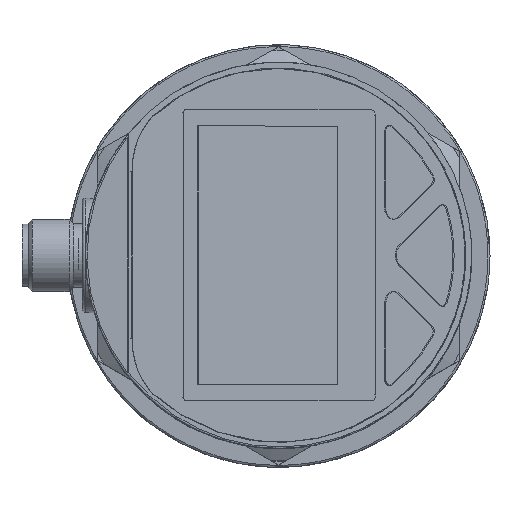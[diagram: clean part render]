
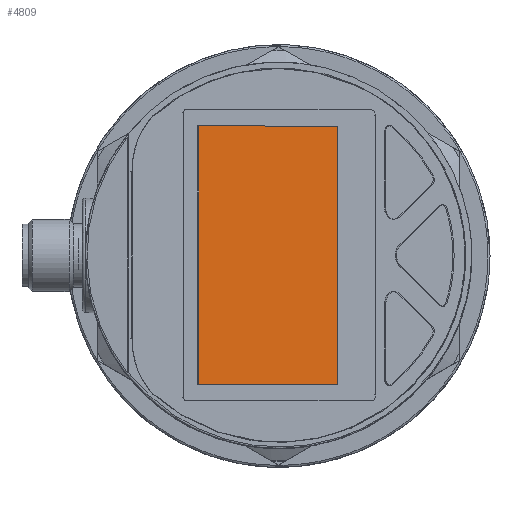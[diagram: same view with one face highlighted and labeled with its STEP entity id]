
A CAD part, top view. The second image highlights one B-rep face of the part: STEP entity #4809.
In plain terms, the highlighted free-form (B-spline) face has degree [1, 1] with [2, 2] control points.
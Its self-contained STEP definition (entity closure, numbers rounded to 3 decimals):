
#4589=CARTESIAN_POINT('',(-16.596,23.645,58.658));
#4590=VERTEX_POINT('',#4589);
#4596=CARTESIAN_POINT('',(-16.596,-23.6,58.658));
#4597=VERTEX_POINT('',#4596);
#4598=CARTESIAN_POINT('',(-16.596,-23.6,58.658));
#4599=CARTESIAN_POINT('',(-16.596,23.645,58.658));
#4600=B_SPLINE_CURVE_WITH_KNOTS('',1,(#4598,#4599),.POLYLINE_FORM.,.F.,.U.,(2,2),(0.,1.),.UNSPECIFIED.);
#4601=EDGE_CURVE('',#4597,#4590,#4600,.T.);
#4619=CARTESIAN_POINT('',(-16.242,24.145,58.305));
#4620=VERTEX_POINT('',#4619);
#4626=CARTESIAN_POINT('',(-16.596,23.645,58.658));
#4627=CARTESIAN_POINT('',(-16.596,24.145,58.658));
#4628=CARTESIAN_POINT('',(-16.242,24.145,58.305));
#4629=(BOUNDED_CURVE()B_SPLINE_CURVE(2,(#4626,#4627,#4628),.CIRCULAR_ARC.,.F.,.U.)B_SPLINE_CURVE_WITH_KNOTS((3,3),(0.,1.),.UNSPECIFIED.)CURVE()GEOMETRIC_REPRESENTATION_ITEM()RATIONAL_B_SPLINE_CURVE((1.,0.707,1.))REPRESENTATION_ITEM(''));
#4630=EDGE_CURVE('',#4590,#4620,#4629,.T.);
#4642=CARTESIAN_POINT('',(14.446,24.145,27.616));
#4643=VERTEX_POINT('',#4642);
#4649=CARTESIAN_POINT('',(-16.242,24.145,58.305));
#4650=CARTESIAN_POINT('',(14.446,24.145,27.616));
#4651=B_SPLINE_CURVE_WITH_KNOTS('',1,(#4649,#4650),.POLYLINE_FORM.,.F.,.U.,(2,2),(0.,1.),.UNSPECIFIED.);
#4652=EDGE_CURVE('',#4620,#4643,#4651,.T.);
#4666=CARTESIAN_POINT('',(15.153,23.145,26.909));
#4667=VERTEX_POINT('',#4666);
#4673=CARTESIAN_POINT('',(14.446,24.145,27.616));
#4674=CARTESIAN_POINT('',(15.153,24.145,26.909));
#4675=CARTESIAN_POINT('',(15.153,23.145,26.909));
#4676=(BOUNDED_CURVE()B_SPLINE_CURVE(2,(#4673,#4674,#4675),.CIRCULAR_ARC.,.F.,.U.)B_SPLINE_CURVE_WITH_KNOTS((3,3),(0.,1.),.UNSPECIFIED.)CURVE()GEOMETRIC_REPRESENTATION_ITEM()RATIONAL_B_SPLINE_CURVE((1.,0.707,1.))REPRESENTATION_ITEM(''));
#4677=EDGE_CURVE('',#4643,#4667,#4676,.T.);
#4689=CARTESIAN_POINT('',(15.153,-23.1,26.909));
#4690=VERTEX_POINT('',#4689);
#4696=CARTESIAN_POINT('',(15.153,23.145,26.909));
#4697=CARTESIAN_POINT('',(15.153,-23.1,26.909));
#4698=B_SPLINE_CURVE_WITH_KNOTS('',1,(#4696,#4697),.POLYLINE_FORM.,.F.,.U.,(2,2),(0.,1.),.UNSPECIFIED.);
#4699=EDGE_CURVE('',#4667,#4690,#4698,.T.);
#4713=CARTESIAN_POINT('',(14.446,-24.1,27.616));
#4714=VERTEX_POINT('',#4713);
#4720=CARTESIAN_POINT('',(15.153,-23.1,26.909));
#4721=CARTESIAN_POINT('',(15.153,-24.1,26.909));
#4722=CARTESIAN_POINT('',(14.446,-24.1,27.616));
#4723=(BOUNDED_CURVE()B_SPLINE_CURVE(2,(#4720,#4721,#4722),.CIRCULAR_ARC.,.F.,.U.)B_SPLINE_CURVE_WITH_KNOTS((3,3),(0.,1.),.UNSPECIFIED.)CURVE()GEOMETRIC_REPRESENTATION_ITEM()RATIONAL_B_SPLINE_CURVE((1.,0.707,1.))REPRESENTATION_ITEM(''));
#4724=EDGE_CURVE('',#4690,#4714,#4723,.T.);
#4736=CARTESIAN_POINT('',(-16.242,-24.1,58.305));
#4737=VERTEX_POINT('',#4736);
#4743=CARTESIAN_POINT('',(14.446,-24.1,27.616));
#4744=CARTESIAN_POINT('',(-16.242,-24.1,58.305));
#4745=B_SPLINE_CURVE_WITH_KNOTS('',1,(#4743,#4744),.POLYLINE_FORM.,.F.,.U.,(2,2),(0.,1.),.UNSPECIFIED.);
#4746=EDGE_CURVE('',#4714,#4737,#4745,.T.);
#4761=CARTESIAN_POINT('',(-16.242,-24.1,58.305));
#4762=CARTESIAN_POINT('',(-16.596,-24.1,58.658));
#4763=CARTESIAN_POINT('',(-16.596,-23.6,58.658));
#4764=(BOUNDED_CURVE()B_SPLINE_CURVE(2,(#4761,#4762,#4763),.CIRCULAR_ARC.,.F.,.U.)B_SPLINE_CURVE_WITH_KNOTS((3,3),(0.,1.),.UNSPECIFIED.)CURVE()GEOMETRIC_REPRESENTATION_ITEM()RATIONAL_B_SPLINE_CURVE((1.,0.707,1.))REPRESENTATION_ITEM(''));
#4765=EDGE_CURVE('',#4737,#4597,#4764,.T.);
#4794=CARTESIAN_POINT('',(31.065,32.462,10.998));
#4795=CARTESIAN_POINT('',(31.065,-32.462,10.998));
#4796=CARTESIAN_POINT('',(-25.262,32.462,67.324));
#4797=CARTESIAN_POINT('',(-25.262,-32.462,67.324));
#4798=B_SPLINE_SURFACE_WITH_KNOTS('',1,1,((#4794,#4795),(#4796,#4797)),.PLANE_SURF.,.F.,.F.,.U.,(2,2),(2,2),(0.028,0.955),(0.028,0.783),.UNSPECIFIED.);
#4799=ORIENTED_EDGE('',*,*,#4677,.F.);
#4800=ORIENTED_EDGE('',*,*,#4652,.F.);
#4801=ORIENTED_EDGE('',*,*,#4630,.F.);
#4802=ORIENTED_EDGE('',*,*,#4601,.F.);
#4803=ORIENTED_EDGE('',*,*,#4765,.F.);
#4804=ORIENTED_EDGE('',*,*,#4746,.F.);
#4805=ORIENTED_EDGE('',*,*,#4724,.F.);
#4806=ORIENTED_EDGE('',*,*,#4699,.F.);
#4807=EDGE_LOOP('',(#4799,#4800,#4801,#4802,#4803,#4804,#4805,#4806));
#4808=FACE_OUTER_BOUND('',#4807,.T.);
#4809=ADVANCED_FACE('',(#4808),#4798,.T.);
